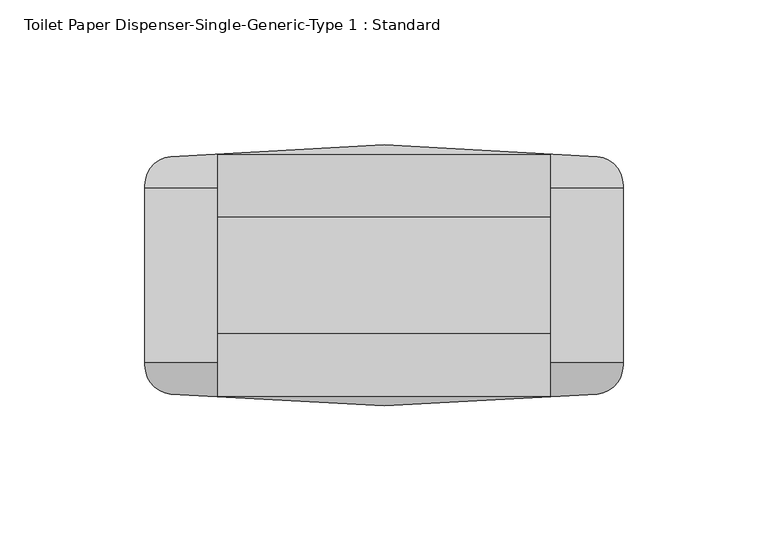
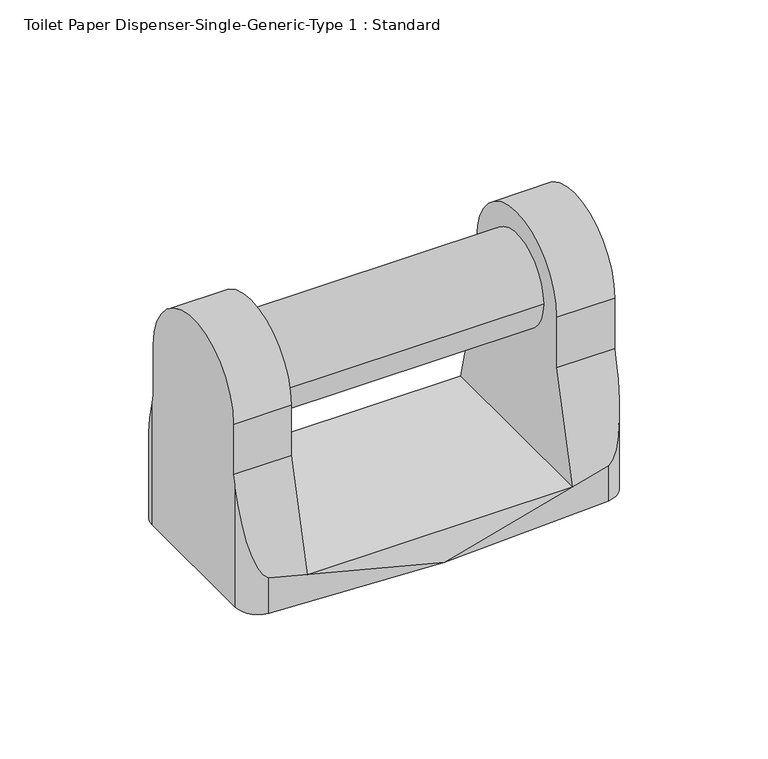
"""IFC4 building model written with IfcOpenShell, lengths in millimetres: proxy geometry, Toilet Paper Dispenser-Single-Generic-Type 1 : Standard."""

from ifc_helpers import new_model, si_unit, frame, origin, place, context, project, spatial, circle_curve, ellipse_curve, source, transform, mapped, element, save
from ifc_brep_helpers import plane_surface, cylinder_surface, advanced_brep


def toilet_paper_dispenser_single_generic_type_1_standard_8c8862bc(model_context):
    return source(origin(), model_context, "Body", "AdvancedBrep", [
        advanced_brep(
        [(82.5, 30.0, 60.0), (82.5, 30.0, 83.0), (82.5, -30.0, 83.0), (82.5, -30.0, 60.0), (82.5, -31.0238016, 55.9047936), (82.5, -31.0238016, 0.0), (82.5, 31.0238016, 0.0), (82.5, 31.0238016, 55.9047936), (-82.5, -30.0, 60.0), (-82.5, -30.0, 83.0), (-82.5, 30.0, 83.0), (-82.5, 30.0, 60.0), (-82.5, 31.0238016, 55.9047936), (-82.5, 31.0238016, 0.0), (-82.5, -31.0238016, 0.0), (-82.5, -31.0238016, 55.9047936), (73.5935929, -40.9638245, 0.0), (0.0, -45.0, 0.0), (-73.5935929, -40.9638245, 0.0), (-73.5935929, 40.9638245, 0.0), (0.0, 45.0, 0.0), (73.5935929, 40.9638245, 0.0), (73.5935929, 40.9638245, 16.1447021), (-73.5935929, 40.9638245, 16.1447021), (-57.5, 30.0, 60.0), (-57.5, 41.875, 12.5), (57.5, 41.875, 12.5), (57.5, 30.0, 60.0), (57.5, 30.0, 83.0), (-57.5, 30.0, 83.0), (57.5, 0.0, 113.0), (57.5, -30.0, 83.0), (-57.5, -30.0, 83.0), (-57.5, 0.0, 113.0), (57.5, -30.0, 60.0), (-57.5, -30.0, 60.0), (57.5, -41.875, 12.5), (-57.5, -41.875, 12.5), (-73.5935929, -40.9638245, 16.1447021), (73.5935929, -40.9638245, 16.1447021), (-57.5, 20.0, 83.0), (-57.5, -20.0, 83.0), (57.5, -20.0, 83.0), (57.5, 20.0, 83.0)],
        [
            (0, 1),
            (1, 2, circle_curve(frame((82.5, 0.0, 83.0), z_axis=(1.0, 0.0, 0.0), x_axis=(0.0, 1.0, 0.0)), 30.0)),
            (2, 3),
            (3, 4),
            (4, 5),
            (5, 6),
            (6, 7),
            (7, 0),
            (8, 9),
            (9, 10, circle_curve(frame((-82.5, 0.0, 83.0), z_axis=(-1.0, 0.0, 0.0), x_axis=(0.0, 1.0, 0.0)), 30.0)),
            (10, 11),
            (11, 12),
            (12, 13),
            (13, 14),
            (14, 15),
            (15, 8),
            (5, 16, circle_curve(frame((72.5, -31.0238016, 0.0), z_axis=(0.0, 0.0, -1.0), x_axis=(1.0, 0.0, 0.0)), 10.0)),
            (16, 17, circle_curve(frame((0.0, 627.952351, 0.0), z_axis=(0.0, 0.0, -1.0), x_axis=(1.0, 0.0, 0.0)), 672.952351)),
            (17, 18, circle_curve(frame((0.0, 627.952351, 0.0), z_axis=(0.0, 0.0, -1.0), x_axis=(1.0, 0.0, 0.0)), 672.952351)),
            (18, 14, circle_curve(frame((-72.5, -31.0238016, 0.0), z_axis=(0.0, 0.0, -1.0), x_axis=(1.0, 0.0, 0.0)), 10.0)),
            (13, 19, circle_curve(frame((-72.5, 31.0238016, 0.0), z_axis=(0.0, 0.0, -1.0), x_axis=(1.0, 0.0, 0.0)), 10.0)),
            (19, 20, circle_curve(frame((0.0, -627.952351, 0.0), z_axis=(0.0, 0.0, -1.0), x_axis=(1.0, 0.0, 0.0)), 672.952351)),
            (20, 21, circle_curve(frame((0.0, -627.952351, 0.0), z_axis=(0.0, 0.0, -1.0), x_axis=(1.0, 0.0, 0.0)), 672.952351)),
            (21, 6, circle_curve(frame((72.5, 31.0238016, 0.0), z_axis=(0.0, 0.0, -1.0), x_axis=(1.0, 0.0, 0.0)), 10.0)),
            (7, 22, ellipse_curve(frame((72.5, 31.0238016, 55.9047936), z_axis=(0.0, 0.9701425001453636, 0.24253562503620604), x_axis=(0.0, 0.24253562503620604, -0.9701425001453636)), 41.2310563, 10.0)),
            (22, 20, ellipse_curve(frame((0.0, -627.952351, 2691.8094041), z_axis=(0.0, 0.9701425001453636, 0.24253562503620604), x_axis=(0.0, 0.24253562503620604, -0.9701425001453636)), 2774.6536243, 672.952351)),
            (20, 23, ellipse_curve(frame((0.0, -627.952351, 2691.8094041), z_axis=(0.0, 0.9701425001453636, 0.24253562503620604), x_axis=(0.0, 0.24253562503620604, -0.9701425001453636)), 2774.6536243, 672.952351)),
            (23, 12, ellipse_curve(frame((-72.5, 31.0238016, 55.9047936), z_axis=(0.0, 0.9701425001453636, 0.24253562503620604), x_axis=(0.0, 0.24253562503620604, -0.9701425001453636)), 41.2310563, 10.0)),
            (11, 24),
            (24, 25),
            (25, 26),
            (26, 27),
            (27, 0),
            (27, 28),
            (28, 1),
            (10, 29),
            (29, 24),
            (28, 30, circle_curve(frame((57.5, 0.0, 83.0), z_axis=(1.0, 0.0, 0.0), x_axis=(0.0, 1.0, 0.0)), 30.0)),
            (30, 31, circle_curve(frame((57.5, 0.0, 83.0), z_axis=(1.0, 0.0, 0.0), x_axis=(0.0, 1.0, 0.0)), 30.0)),
            (31, 2),
            (9, 32),
            (32, 33, circle_curve(frame((-57.5, 0.0, 83.0), z_axis=(-1.0, 0.0, 0.0), x_axis=(0.0, 1.0, 0.0)), 30.0)),
            (33, 29, circle_curve(frame((-57.5, 0.0, 83.0), z_axis=(-1.0, 0.0, 0.0), x_axis=(0.0, 1.0, 0.0)), 30.0)),
            (31, 34),
            (34, 3),
            (8, 35),
            (35, 32),
            (34, 36),
            (36, 37),
            (37, 35),
            (15, 38, ellipse_curve(frame((-72.5, -31.0238016, 55.9047936), z_axis=(0.0, -0.9701425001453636, 0.24253562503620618), x_axis=(0.0, -0.24253562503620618, -0.9701425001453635)), 41.2310563, 10.0)),
            (38, 17, ellipse_curve(frame((0.0, 627.952351, 2691.8094041), z_axis=(0.0, -0.9701425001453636, 0.24253562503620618), x_axis=(0.0, -0.24253562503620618, -0.9701425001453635)), 2774.6536243, 672.952351)),
            (17, 39, ellipse_curve(frame((0.0, 627.952351, 2691.8094041), z_axis=(0.0, -0.9701425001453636, 0.24253562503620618), x_axis=(0.0, -0.24253562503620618, -0.9701425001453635)), 2774.6536243, 672.952351)),
            (39, 4, ellipse_curve(frame((72.5, -31.0238016, 55.9047936), z_axis=(0.0, -0.9701425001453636, 0.24253562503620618), x_axis=(0.0, -0.24253562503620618, -0.9701425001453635)), 41.2310563, 10.0)),
            (21, 22),
            (39, 16),
            (38, 18),
            (23, 19),
            (37, 25),
            (40, 41, circle_curve(frame((-57.5, 0.0, 83.0), z_axis=(-1.0, 0.0, 0.0), x_axis=(0.0, 1.0, 0.0)), 20.0)),
            (41, 40, circle_curve(frame((-57.5, 0.0, 83.0), z_axis=(-1.0, 0.0, 0.0), x_axis=(0.0, 1.0, 0.0)), 20.0)),
            (26, 36),
            (42, 43, circle_curve(frame((57.5, 0.0, 83.0), z_axis=(1.0, 0.0, 0.0), x_axis=(0.0, 1.0, 0.0)), 20.0)),
            (43, 42, circle_curve(frame((57.5, 0.0, 83.0), z_axis=(1.0, 0.0, 0.0), x_axis=(0.0, 1.0, 0.0)), 20.0)),
            (42, 41),
            (40, 43),
        ],
        [
            plane_surface(frame((82.5, 45.0, 0.0), z_axis=(1.0, 0.0, 0.0), x_axis=(0.0, 1.0, 0.0))),
            plane_surface(frame((-82.5, 45.0, 0.0), z_axis=(-1.0, 0.0, 0.0), x_axis=(0.0, -1.0, 0.0))),
            plane_surface(frame((82.5, -45.0, 0.0), z_axis=(0.0, 0.0, -1.0), x_axis=(-1.0, 0.0, 0.0))),
            plane_surface(frame((82.5, 45.0, 0.0), z_axis=(0.0, 0.9701425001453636, 0.24253562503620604), x_axis=(-1.0, 0.0, 0.0))),
            plane_surface(frame((82.5, 30.0, 60.0), z_axis=(0.0, 1.0, 0.0), x_axis=(-1.0, 0.0, 0.0))),
            cylinder_surface(frame((-82.5, 0.0, 83.0), z_axis=(1.0, 0.0, 0.0), x_axis=(0.0, 1.0, 0.0)), 30.0),
            plane_surface(frame((82.5, -30.0, 83.0), z_axis=(0.0, -1.0, 0.0), x_axis=(-1.0, 0.0, 0.0))),
            plane_surface(frame((82.5, -30.0, 60.0), z_axis=(0.0, -0.9701425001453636, 0.24253562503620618), x_axis=(-1.0, 0.0, 0.0))),
            cylinder_surface(frame((72.5, 31.0238016, -100.0), z_axis=(0.0, 0.0, -1.0), x_axis=(1.0, 0.0, 0.0)), 10.0),
            cylinder_surface(frame((72.5, -31.0238016, -100.0), z_axis=(0.0, 0.0, -1.0), x_axis=(1.0, 0.0, 0.0)), 10.0),
            cylinder_surface(frame((0.0, 627.952351, -100.0), z_axis=(0.0, 0.0, -1.0), x_axis=(1.0, 0.0, 0.0)), 672.952351),
            cylinder_surface(frame((-72.5, -31.0238016, -100.0), z_axis=(0.0, 0.0, -1.0), x_axis=(1.0, 0.0, 0.0)), 10.0),
            cylinder_surface(frame((-72.5, 31.0238016, -100.0), z_axis=(0.0, 0.0, -1.0), x_axis=(1.0, 0.0, 0.0)), 10.0),
            cylinder_surface(frame((0.0, -627.952351, -100.0), z_axis=(0.0, 0.0, -1.0), x_axis=(1.0, 0.0, 0.0)), 672.952351),
            plane_surface(frame((-57.5, 104.5, 12.5), z_axis=(1.0, 0.0, 0.0), x_axis=(0.0, -1.0, 0.0))),
            plane_surface(frame((57.5, 104.5, 113.0), z_axis=(-1.0, 0.0, 0.0), x_axis=(0.0, -1.0, 0.0))),
            plane_surface(frame((57.5, 104.5, 12.5), z_axis=(0.0, 0.0, 1.0), x_axis=(0.0, -1.0, 0.0))),
            cylinder_surface(frame((-82.5, 0.0, 83.0), z_axis=(1.0, 0.0, 0.0), x_axis=(0.0, 1.0, 0.0)), 20.0),
        ],
        [
            (0, [[1, 2, 3, 4, 5, 6, 7, 8]]),
            (1, [[9, 10, 11, 12, 13, 14, 15, 16]]),
            (2, [[-6, 17, 18, 19, 20, -14, 21, 22, 23, 24]]),
            (3, [[-8, 25, 26, 27, 28, -12, 29, 30, 31, 32, 33]]),
            (4, [[-1, -33, 34, 35]]),
            (4, [[-11, 36, 37, -29]]),
            (5, [[-2, -35, 38, 39, 40]]),
            (5, [[-10, 41, 42, 43, -36]]),
            (6, [[-3, -40, 44, 45]]),
            (6, [[-9, 46, 47, -41]]),
            (7, [[-4, -45, 48, 49, 50, -46, -16, 51, 52, 53, 54]]),
            (8, [[55, -25, -7, -24]]),
            (9, [[56, -17, -5, -54]]),
            (10, [[-56, -53, -18]]),
            (10, [[57, -19, -52]]),
            (11, [[-57, -51, -15, -20]]),
            (12, [[58, -21, -13, -28]]),
            (13, [[-55, -23, -26]]),
            (13, [[-58, -27, -22]]),
            (14, [[59, -30, -37, -43, -42, -47, -50], [60, 61]]),
            (15, [[62, -48, -44, -39, -38, -34, -32], [63, 64]]),
            (16, [[-59, -49, -62, -31]]),
            (17, [[65, -60, 66, -63]]),
            (17, [[-65, -64, -66, -61]]),
        ],
    ),
    ])


if __name__ == "__main__":
    model = new_model("IFC4")
    model_context = context("Model", 3, world=origin())
    ifc_project = project(units=[si_unit("LENGTHUNIT", "METRE", prefix="MILLI")], contexts=[model_context])
    site = spatial("IfcSite", under=ifc_project)
    building = spatial("IfcBuilding", under=site)
    placement = place(None, origin())
    toilet_paper_dispenser_single_generic_type_1_standard_shape = toilet_paper_dispenser_single_generic_type_1_standard_8c8862bc(model_context)
    element("IfcBuildingElementProxy", 1, Name="Toilet Paper Dispenser-Single-Generic-Type 1 : Standard", ObjectType="Toilet Paper Dispenser-Single-Generic-Type 1 : Standard", at=placement, inside=building, context=model_context, shape_type="MappedRepresentation", body=[
        mapped(toilet_paper_dispenser_single_generic_type_1_standard_shape, transform((0.0, 0.0, 0.0), x_axis=(1.0, 0.0, 0.0), y_axis=(0.0, 1.0, 0.0), z_axis=(0.0, 0.0, 1.0))),
    ])
    save(model, "model.ifc")
